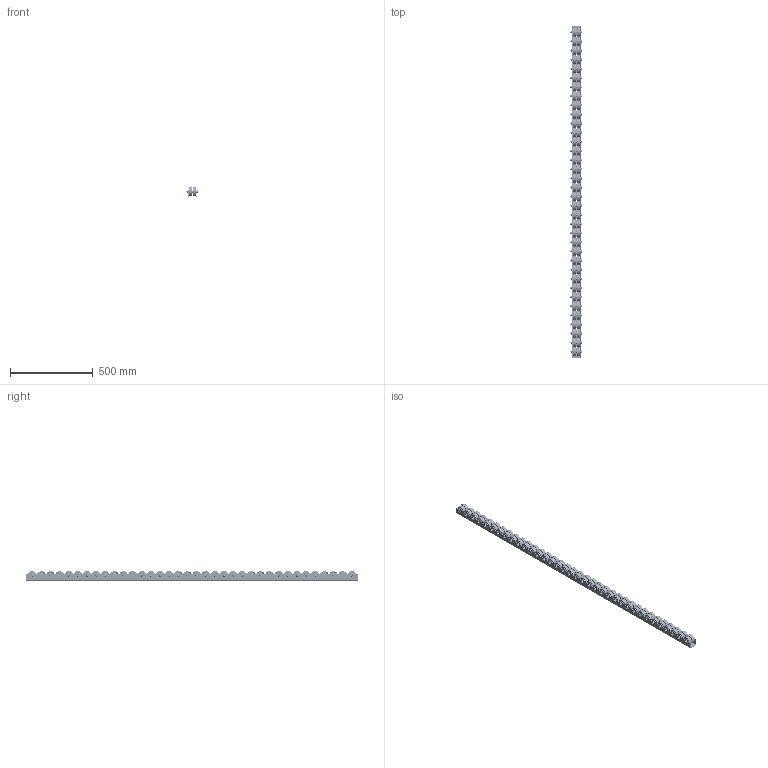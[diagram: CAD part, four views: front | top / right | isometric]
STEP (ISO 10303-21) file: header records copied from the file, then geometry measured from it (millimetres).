
FILE_DESCRIPTION( ( 'Unknown' ), '1' );
FILE_NAME( 'D:/Construktor/Listwy rolkowe 2015/Listwa T660/Listwa T660.stp', 'Unknown', ( 'Unknown' ), ( 'Unknown' ), 'PSStep 17.0.49', 'Unknown', ' ' );
FILE_SCHEMA( ( 'AUTOMOTIVE_DESIGN { 1 0 10303 214 1 1 1 1 }' ) );
Length unit declared in the file: millimetre
Products named in the file (9): Rolka T 630G; Rolka; Guma; Assem1; DIN_931_M8x35; DIN_931_M8x35-oa0; DIN_931_M8x35-oa1; Nut_DIN_980_M_M8_v10.50; Ceownik T640
Assembly tree (147 placements, depth 3):
  Assem1
    DIN_931_M8x35  x34
    DIN_931_M8x35-oa0
    DIN_931_M8x35-oa1
    Nut_DIN_980_M_M8_v10.50  x36
    Ceownik T640
    Rolka T 630G  x72
      Rolka
      Guma
Bounding box: 70.3 x 2000 x 58.98 mm (x, y, z)
Volume: 3202611.6 mm3; surface area: 1760383.6 mm2
Topology: 217 solids, 217 shells, 4028 faces, 8064 edges, 5262 vertices
Faces by surface type: plane 1666, cylinder 1246, torus 576, cone 540
Full cylindrical faces by diameter (mm): 6.466 x36, 6.647 x36, 6.697 x36, 8 x144, 8.2 x90, 8.4 x36, 11.63 x36, 12 x144, 12.5 x36, 30.068 x144, 46.125 x288, 50 x144, 54 x72
Entity records: 9818 total; most frequent: CARTESIAN_POINT 1512, DIRECTION 1398, ORIENTED_EDGE 828, AXIS2_PLACEMENT_3D 664, EDGE_LOOP 574, EDGE_CURVE 414, FACE_OUTER_BOUND 361, VERTEX_POINT 354
